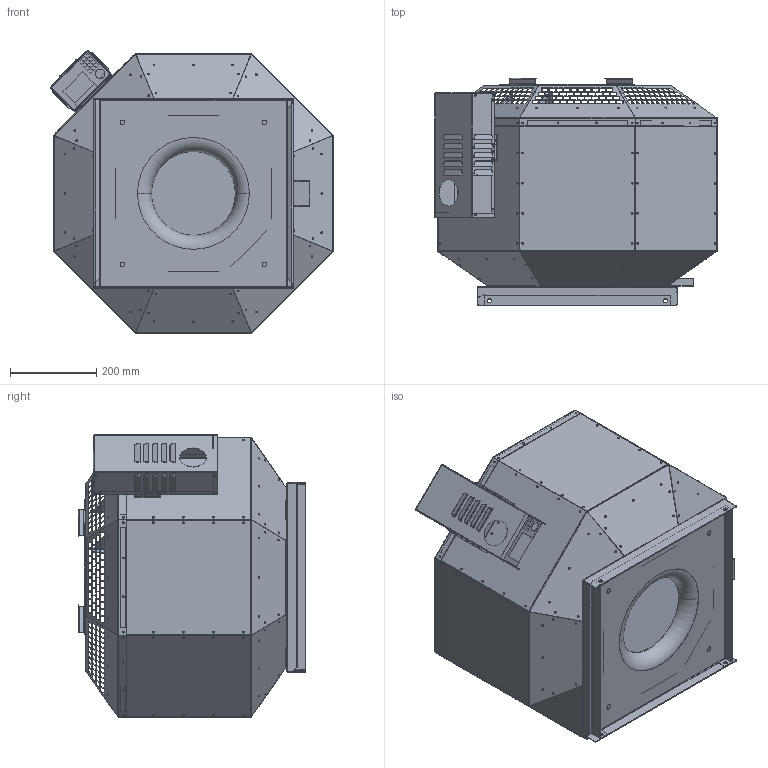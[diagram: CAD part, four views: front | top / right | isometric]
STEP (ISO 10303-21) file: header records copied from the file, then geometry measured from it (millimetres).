
FILE_DESCRIPTION (( 'STEP AP203' ), '1' );
FILE_NAME ('144619-00_DVNI315D4F430_step.step', '2018-08-01T05:30:14', ( '' ), ( '' ), 'SwSTEP 2.0', 'SolidWorks 2017', '' );
FILE_SCHEMA (( 'CONFIG_CONTROL_DESIGN' ));
Length unit declared in the file: millimetre
Products named in the file (2): 144619-00_DVNI315D4F430_step
Bounding box: 657.65 x 528.51 x 657.65 mm (x, y, z)
Surface area: 3576697 mm2 (no closed solid volume)
Topology: 0 solids, 47 shells, 2660 faces, 10838 edges, 7670 vertices
Faces by surface type: plane 2117, cylinder 455, bspline 86, torus 2
Entity records: 131298 total; most frequent: CARTESIAN_POINT 39753, ORIENTED_EDGE 17425, DIRECTION 17180, EDGE_CURVE 10838, LINE 8666, VECTOR 8666, VERTEX_POINT 7670, EDGE_LOOP 4587
